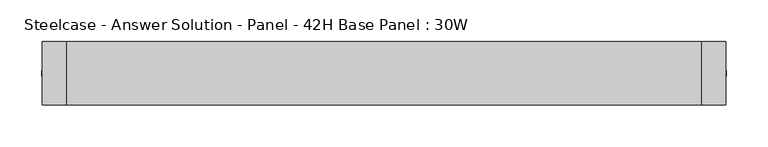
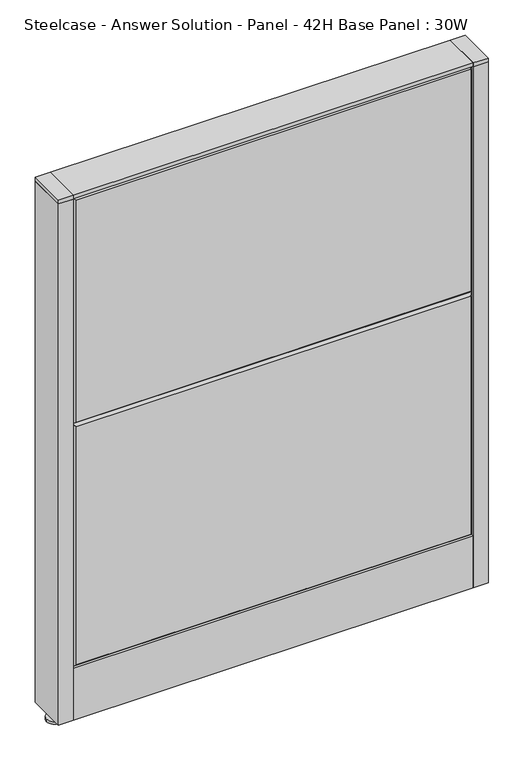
"""IFC4 building model written with IfcOpenShell, lengths in millimetres: furniture geometry, Steelcase - Answer Solution - Panel - 42H Base Panel : 30W."""

from ifc_helpers import new_model, si_unit, point, frame, frame_2d, origin, place, context, project, spatial, polyline, circle_curve, trimmed, segment, composite_curve, outline, extrude, faceted_brep, source, transform, mapped, element, save


def steelcase_answer_solution_panel_42h_base_panel_30w_bb5c4a68(model_context):
    return source(origin(), model_context, "Body", "SolidModel", [
        extrude(outline(composite_curve([segment(trimmed(circle_curve(frame_2d((395.224, 0.0039657)), 5.08), [point((400.304, 0.0039657))], [point((390.144, 0.0039657))], False, "CARTESIAN"), True, "CONTINUOUS"), segment(trimmed(circle_curve(frame_2d((395.224, 0.0039657)), 5.08), [point((390.144, 0.0039657))], [point((400.304, 0.0039657))], False, "CARTESIAN"), True, "CONTINUOUS")], self_intersect=False)), frame((0.0, 0.0, 5.0799671), z_axis=(0.0, 0.0, 1.0), x_axis=(1.0, 0.0, 0.0)), (0.0, 0.0, 1.0), 10.414),
        extrude(outline(composite_curve([segment(trimmed(circle_curve(frame_2d((395.224, 0.0039657)), 15.24), [point((410.464, 0.0039657))], [point((379.984, 0.0039657))], False, "CARTESIAN"), True, "CONTINUOUS"), segment(trimmed(circle_curve(frame_2d((395.224, 0.0039657)), 15.24), [point((379.984, 0.0039657))], [point((410.464, 0.0039657))], False, "CARTESIAN"), True, "CONTINUOUS")], self_intersect=False)), frame((0.0, 0.0, -3.29e-05), z_axis=(0.0, 0.0, 1.0), x_axis=(1.0, 0.0, 0.0)), (0.0, 0.0, 1.0), 5.08),
        extrude(outline(polyline([(409.575, 38.1039851), (409.575, -38.0960149), (381.0, -38.0960149), (381.0, 38.1039851), (409.575, 38.1039851)])), frame((0.0, 0.0, 1065.8348), z_axis=(0.0, 0.0, 1.0), x_axis=(1.0, 0.0, 0.0)), (0.0, 0.0, 1.0), 7.3151671),
        extrude(outline(polyline([(409.575, 38.1039851), (409.575, -38.0960149), (381.0, -38.0960149), (381.0, 38.1039851), (409.575, 38.1039851)])), frame((0.0, 0.0, 15.4939671), z_axis=(0.0, 0.0, 1.0), x_axis=(1.0, 0.0, 0.0)), (0.0, 0.0, 1.0), 1050.3408329),
        extrude(outline(composite_curve([segment(trimmed(circle_curve(frame_2d((-395.224, 0.0039657)), 5.08), [point((-400.304, 0.0039657))], [point((-390.144, 0.0039657))], False, "CARTESIAN"), True, "CONTINUOUS"), segment(trimmed(circle_curve(frame_2d((-395.224, 0.0039657)), 5.08), [point((-390.144, 0.0039657))], [point((-400.304, 0.0039657))], False, "CARTESIAN"), True, "CONTINUOUS")], self_intersect=False)), frame((0.0, 0.0, 5.0799671), z_axis=(0.0, 0.0, 1.0), x_axis=(1.0, 0.0, 0.0)), (0.0, 0.0, 1.0), 10.414),
        extrude(outline(composite_curve([segment(trimmed(circle_curve(frame_2d((-395.224, 0.0039657)), 15.24), [point((-410.464, 0.0039657))], [point((-379.984, 0.0039657))], False, "CARTESIAN"), True, "CONTINUOUS"), segment(trimmed(circle_curve(frame_2d((-395.224, 0.0039657)), 15.24), [point((-379.984, 0.0039657))], [point((-410.464, 0.0039657))], False, "CARTESIAN"), True, "CONTINUOUS")], self_intersect=False)), frame((0.0, 0.0, -3.29e-05), z_axis=(0.0, 0.0, 1.0), x_axis=(1.0, 0.0, 0.0)), (0.0, 0.0, 1.0), 5.08),
        extrude(outline(polyline([(-409.575, 38.1039851), (-381.0, 38.1039851), (-381.0, -38.0960149), (-409.575, -38.0960149), (-409.575, 38.1039851)])), frame((0.0, 0.0, 1065.8348), z_axis=(0.0, 0.0, 1.0), x_axis=(1.0, 0.0, 0.0)), (0.0, 0.0, 1.0), 7.3151671),
        extrude(outline(polyline([(-409.575, 38.1039851), (-381.0, 38.1039851), (-381.0, -38.0960149), (-409.575, -38.0960149), (-409.575, 38.1039851)])), frame((0.0, 0.0, 15.4939671), z_axis=(0.0, 0.0, 1.0), x_axis=(1.0, 0.0, 0.0)), (0.0, 0.0, 1.0), 1050.3408329),
        faceted_brep([(-376.174, 38.1635011, 1061.974), (376.174, 38.1635011, 1061.974), (376.174, 38.1635011, 614.426), (-376.174, 38.1635011, 614.426), (-381.0, 33.3375011, 1066.8), (-381.0, 33.3375011, 609.6), (381.0, 33.3375011, 609.6), (381.0, 33.3375011, 1066.8)], [[[0, 1, 2, 3]], [[4, 5, 6, 7]], [[4, 7, 1, 0]], [[7, 6, 2, 1]], [[6, 5, 3, 2]], [[5, 4, 0, 3]]]),
        faceted_brep([(-376.174, 38.1635011, 604.774), (376.174, 38.1635011, 604.774), (376.174, 38.1635011, 125.476), (-376.174, 38.1635011, 125.476), (-381.0, 33.3375011, 609.6), (-381.0, 33.3375011, 120.65), (381.0, 33.3375011, 120.65), (381.0, 33.3375011, 609.6)], [[[0, 1, 2, 3]], [[4, 5, 6, 7]], [[4, 7, 1, 0]], [[7, 6, 2, 1]], [[6, 5, 3, 2]], [[5, 4, 0, 3]]]),
        faceted_brep([(376.174, -38.1635011, 1061.974), (-376.174, -38.1635011, 1061.974), (-376.174, -38.1635011, 614.426), (376.174, -38.1635011, 614.426), (381.0, -33.3375011, 1066.8), (381.0, -33.3375011, 609.6), (-381.0, -33.3375011, 609.6), (-381.0, -33.3375011, 1066.8)], [[[0, 1, 2, 3]], [[4, 5, 6, 7]], [[4, 7, 1, 0]], [[7, 6, 2, 1]], [[6, 5, 3, 2]], [[5, 4, 0, 3]]]),
        faceted_brep([(376.174, -38.1635011, 604.774), (-376.174, -38.1635011, 604.774), (-376.174, -38.1635011, 125.476), (376.174, -38.1635011, 125.476), (381.0, -33.3375011, 609.6), (381.0, -33.3375011, 120.65), (-381.0, -33.3375011, 120.65), (-381.0, -33.3375011, 609.6)], [[[0, 1, 2, 3]], [[4, 5, 6, 7]], [[4, 7, 1, 0]], [[7, 6, 2, 1]], [[6, 5, 3, 2]], [[5, 4, 0, 3]]]),
        extrude(outline(polyline([(381.0, 38.1000194), (381.0, -38.1000194), (-381.0, -38.1000194), (-381.0, 38.1000194), (381.0, 38.1000194)])), frame((0.0, 0.0, 1066.8), z_axis=(0.0, 0.0, 1.0), x_axis=(1.0, 0.0, 0.0)), (0.0, 0.0, 1.0), 6.35),
        extrude(outline(polyline([(25.4000011, 119.8575157), (25.4000011, 120.65), (38.1000194, 120.65), (38.1000194, 15.494), (37.3075215, 15.494), (37.3075215, 119.8575157), (25.4000011, 119.8575157)])), frame((-381.0, 0.0, 0.0), z_axis=(1.0, 0.0, 0.0), x_axis=(0.0, 1.0, 0.0)), (0.0, 0.0, 1.0), 762.0),
        extrude(outline(polyline([(-25.4000011, 119.8575157), (-37.3075215, 119.8575157), (-37.3075215, 15.494), (-38.1000194, 15.494), (-38.1000194, 120.65), (-25.4000011, 120.65), (-25.4000011, 119.8575157)])), frame((-381.0, 0.0, 0.0), z_axis=(1.0, 0.0, 0.0), x_axis=(0.0, 1.0, 0.0)), (0.0, 0.0, 1.0), 762.0),
    ])


if __name__ == "__main__":
    model = new_model("IFC4")
    model_context = context("Model", 3, world=origin())
    ifc_project = project(units=[si_unit("LENGTHUNIT", "METRE", prefix="MILLI")], contexts=[model_context])
    site = spatial("IfcSite", under=ifc_project)
    building = spatial("IfcBuilding", under=site)
    placement = place(None, origin())
    steelcase_answer_solution_panel_42h_base_panel_30w_shape = steelcase_answer_solution_panel_42h_base_panel_30w_bb5c4a68(model_context)
    element("IfcFurniture", 1, ObjectType="Steelcase - Answer Solution - Panel - 42H Base Panel : 30W", at=placement, inside=building, context=model_context, shape_type="MappedRepresentation", body=[
        mapped(steelcase_answer_solution_panel_42h_base_panel_30w_shape, transform((0.0, 0.0, 0.0), x_axis=(1.0, 0.0, 0.0), y_axis=(0.0, 1.0, 0.0), z_axis=(0.0, 0.0, 1.0))),
    ])
    save(model, "model.ifc")
